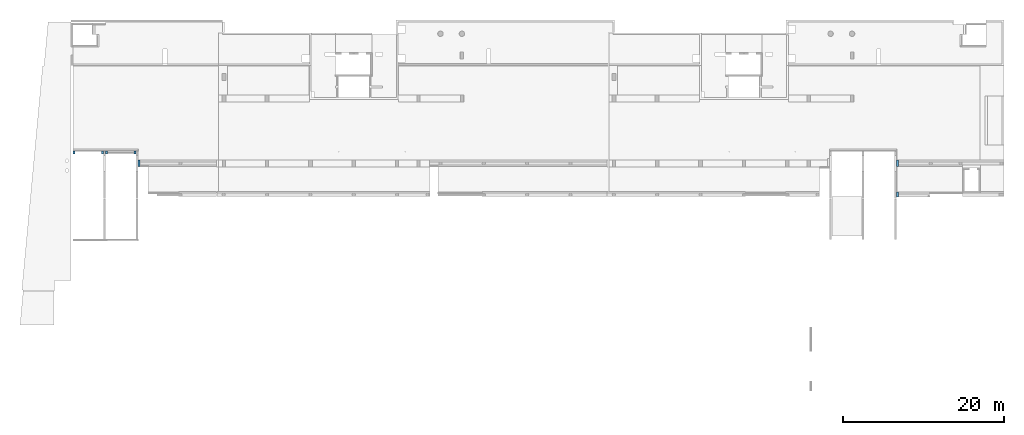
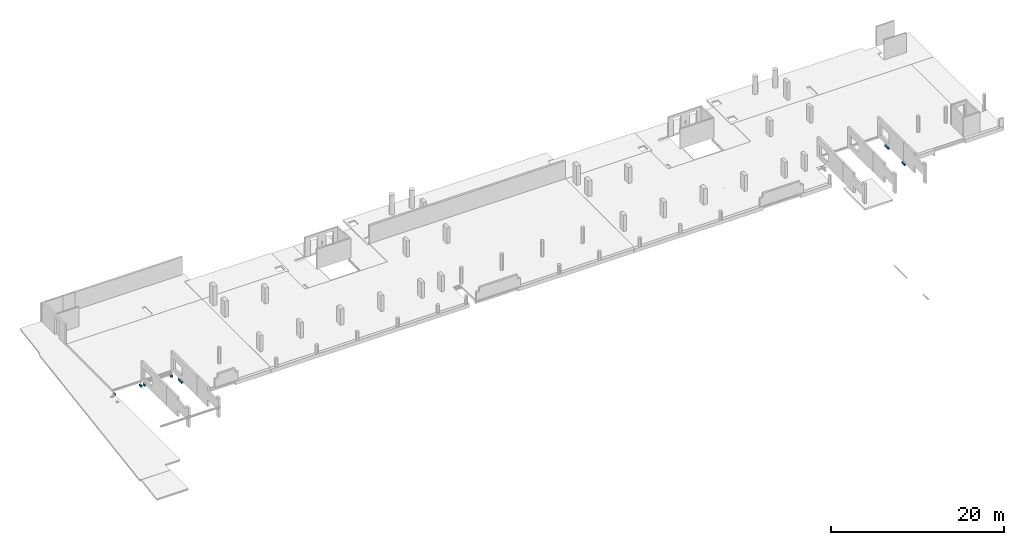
# One storey, part 8 of 8: 7 walls.
"""IFC2X3 building model written with IfcOpenShell, lengths in millimetres."""

from ifc_helpers import new_model, entity, si_unit, converted_unit, derived_unit, direction, frame, origin, place, context, subcontext, project, spatial, faceted_brep, material, type_object, element, save


model = new_model("IFC2X3")

# Units and contexts
model_context = context("Model", 3, precision=0.01, world=origin(), true_north=direction((6.12303176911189e-17, 1.0)))
body_context = subcontext(model_context, "Body", "Model", "MODEL_VIEW")
ifc_project = project(units=[si_unit("LENGTHUNIT", "METRE", prefix="MILLI"), si_unit("AREAUNIT", "SQUARE_METRE"), si_unit("VOLUMEUNIT", "CUBIC_METRE"), converted_unit("PLANEANGLEUNIT", "DEGREE", entity("IfcRatioMeasure", 0.0174532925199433), si_unit("PLANEANGLEUNIT", "RADIAN"), dimensions=[0, 0, 0, 0, 0, 0, 0]), si_unit("MASSUNIT", "GRAM", prefix="KILO"), derived_unit("MASSDENSITYUNIT", [(si_unit("MASSUNIT", "GRAM", prefix="KILO"), 1), (si_unit("LENGTHUNIT", "METRE"), -3)]), si_unit("TIMEUNIT", "SECOND"), si_unit("FREQUENCYUNIT", "HERTZ"), si_unit("THERMODYNAMICTEMPERATUREUNIT", "DEGREE_CELSIUS"), derived_unit("THERMALTRANSMITTANCEUNIT", [(si_unit("MASSUNIT", "GRAM", prefix="KILO"), 1), (si_unit("THERMODYNAMICTEMPERATUREUNIT", "KELVIN"), -1), (si_unit("TIMEUNIT", "SECOND"), -3)]), derived_unit("VOLUMETRICFLOWRATEUNIT", [(si_unit("LENGTHUNIT", "METRE"), 3), (si_unit("TIMEUNIT", "SECOND"), -1)]), si_unit("ELECTRICCURRENTUNIT", "AMPERE"), si_unit("ELECTRICVOLTAGEUNIT", "VOLT"), si_unit("POWERUNIT", "WATT"), si_unit("FORCEUNIT", "NEWTON", prefix="KILO"), si_unit("ILLUMINANCEUNIT", "LUX"), si_unit("LUMINOUSFLUXUNIT", "LUMEN"), si_unit("LUMINOUSINTENSITYUNIT", "CANDELA"), derived_unit("USERDEFINED", [(si_unit("MASSUNIT", "GRAM", prefix="KILO"), -1), (si_unit("LENGTHUNIT", "METRE"), -2), (si_unit("TIMEUNIT", "SECOND"), 3), (si_unit("LUMINOUSFLUXUNIT", "LUMEN"), 1)]), derived_unit("LINEARVELOCITYUNIT", [(si_unit("LENGTHUNIT", "METRE"), 1), (si_unit("TIMEUNIT", "SECOND"), -1)]), si_unit("PRESSUREUNIT", "PASCAL"), derived_unit("USERDEFINED", [(si_unit("LENGTHUNIT", "METRE"), -2), (si_unit("MASSUNIT", "GRAM", prefix="KILO"), 1), (si_unit("TIMEUNIT", "SECOND"), -2)])], contexts=[model_context])

# Site, building, storey
site_placement = place(None, origin())
site = spatial("IfcSite", under=ifc_project, at=site_placement, Name="Default", CompositionType="ELEMENT")
building_placement = place(site_placement, origin())
building = spatial("IfcBuilding", under=site, at=building_placement, Name="niet gebruiken", CompositionType="ELEMENT")
storey_placement = place(building_placement, frame((0.0, 0.0, 3810.0)))
storey = spatial("IfcBuildingStorey", under=building, at=storey_placement, Name="01a eerste tussenverdieping", CompositionType="ELEMENT", Elevation=3810.0)

# Walls
ifc_material = material(Name="NLRS_f2_beton prefab")
wall_type_1 = type_object("IfcWallType", Name="NLRS_21.21_SF_WPB_oplegnok prefabbeton_gen:250x310", PredefinedType="NOTDEFINED", material=ifc_material)
for number, where, z_axis, x_axis, name in (
    (1, (110825.0, 28481.0, -850.0), (0.0, 0.0, 1.0), (0.0, 1.0, 0.0), "NLRS_21.21_SF_WPB_oplegnok prefabbeton_gen:250x310"),
    (2, (16325.0, 28481.0, -850.0), (0.0, 0.0, 1.0), (0.0, 1.0, 0.0), "NLRS_21.21_SF_WPB_oplegnok prefabbeton_gen:250x310"),
):
    element("IfcWall", number, at=place(storey_placement, frame(where, z_axis=z_axis, x_axis=x_axis)), inside=storey, type_object=wall_type_1, material=ifc_material, Name=name, ObjectType="NLRS_21.21_SF_WPB_oplegnok prefabbeton_gen:250x310", context=body_context, shape_type="Brep", body=[
        faceted_brep([(0.0, 0.0, 310.0), (0.0, 0.0, 0.0), (0.0, -250.0, 39.9987607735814), (0.0, -250.0, 310.0), (800.0, 0.0, 310.0), (800.0, -250.0, 310.0), (800.0, -250.0, 39.9987607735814), (800.0, 0.0, 0.0)], [[[0, 1, 2, 3]], [[4, 5, 6, 7]], [[1, 0, 4, 7]], [[3, 2, 6, 5]], [[0, 3, 5, 4]], [[2, 1, 7, 6]]]),
    ])
wall_1_placement = place(storey_placement, frame((110825.0, 24701.0, -850.0), z_axis=(0.0, 0.0, 1.0), x_axis=(0.0, 1.0, 0.0)))
element("IfcWall", 3, at=wall_1_placement, inside=storey, type_object=wall_type_1, material=ifc_material, Name="NLRS_21.21_SF_WPB_oplegnok prefabbeton_gen:250x310", ObjectType="NLRS_21.21_SF_WPB_oplegnok prefabbeton_gen:250x310", context=body_context, shape_type="Brep", body=[
    faceted_brep([(0.0, 0.0, 310.0), (0.0, 0.0, 0.0), (0.0, -250.0, 39.9987607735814), (0.0, -250.0, 310.0), (600.0, 0.0, 310.0), (600.0, -250.0, 310.0), (600.0, -250.0, 39.9987607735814), (600.0, 0.0, 0.0)], [[[0, 1, 2, 3]], [[4, 5, 6, 7]], [[1, 0, 4, 7]], [[3, 2, 6, 5]], [[0, 3, 5, 4]], [[2, 1, 7, 6]]]),
])
wall_type_2 = type_object("IfcWallType", Name="NLRS_21.21_SF_WPB_oplegnok prefabbeton_gen:250x270 met afschuining 9gr", PredefinedType="NOTDEFINED", material=ifc_material)
wall_2_placement = place(storey_placement, frame((12275.0, 30046.0, -770.0), z_axis=(0.0, 0.0, 1.0), x_axis=(0.0, 1.0, 0.0)))
element("IfcWall", 4, at=wall_2_placement, inside=storey, type_object=wall_type_2, material=ifc_material, Name="NLRS_21.21_SF_WPB_oplegnok prefabbeton_gen:250x270 met afschuining 9gr", ObjectType="NLRS_21.21_SF_WPB_oplegnok prefabbeton_gen:250x270 met afschuining 9gr", context=body_context, shape_type="Brep", body=[
    faceted_brep([(0.0, 0.0, 310.0), (0.0, 0.0, 0.0), (0.0, -250.0, 39.5961100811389), (0.0, -250.0, 310.0), (380.0, 0.0, 310.0), (380.0, -250.0, 310.0), (380.0, -250.0, 39.5961100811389), (380.0, 0.0, 0.0)], [[[0, 1, 2, 3]], [[4, 5, 6, 7]], [[1, 0, 4, 7]], [[3, 2, 6, 5]], [[0, 3, 5, 4]], [[2, 1, 7, 6]]]),
])
wall_3_placement = place(storey_placement, frame((15825.0, 30046.0, -770.0), z_axis=(0.0, 0.0, 1.0), x_axis=(0.0, 1.0, 0.0)))
element("IfcWall", 5, at=wall_3_placement, inside=storey, type_object=wall_type_2, material=ifc_material, Name="NLRS_21.21_SF_WPB_oplegnok prefabbeton_gen:250x270 met afschuining 9gr", ObjectType="NLRS_21.21_SF_WPB_oplegnok prefabbeton_gen:250x270 met afschuining 9gr", context=body_context, shape_type="Brep", body=[
    faceted_brep([(0.0, -250.0, 310.0), (0.0, 0.0, 310.0), (0.0, 0.0, 39.5961100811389), (0.0, -250.0, 0.0), (380.0, -250.0, 310.0), (380.0, -250.0, 0.0), (380.0, 0.0, 39.5961100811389), (380.0, 0.0, 310.0)], [[[0, 1, 2, 3]], [[4, 5, 6, 7]], [[3, 5, 4, 0]], [[1, 7, 6, 2]], [[0, 4, 7, 1]], [[2, 6, 5, 3]]]),
])
wall_4_placement = place(storey_placement, frame((8225.0, 30046.0, -770.0), z_axis=(0.0, 0.0, 1.0), x_axis=(0.0, 1.0, 0.0)))
element("IfcWall", 6, at=wall_4_placement, inside=storey, type_object=wall_type_2, material=ifc_material, Name="NLRS_21.21_SF_WPB_oplegnok prefabbeton_gen:250x270 met afschuining 9gr", ObjectType="NLRS_21.21_SF_WPB_oplegnok prefabbeton_gen:250x270 met afschuining 9gr", context=body_context, shape_type="Brep", body=[
    faceted_brep([(0.0, 0.0, 310.0), (0.0, 0.0, 0.0), (0.0, -250.0, 39.5961100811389), (0.0, -250.0, 310.0), (380.0, 0.0, 310.0), (380.0, -250.0, 310.0), (380.0, -250.0, 39.5961100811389), (380.0, 0.0, 0.0)], [[[0, 1, 2, 3]], [[4, 5, 6, 7]], [[1, 0, 4, 7]], [[3, 2, 6, 5]], [[0, 3, 5, 4]], [[2, 1, 7, 6]]]),
])
wall_5_placement = place(storey_placement, frame((11775.0, 30046.0, -770.0), z_axis=(0.0, 0.0, 1.0), x_axis=(0.0, 1.0, 0.0)))
element("IfcWall", 7, at=wall_5_placement, inside=storey, type_object=wall_type_2, material=ifc_material, Name="NLRS_21.21_SF_WPB_oplegnok prefabbeton_gen:250x270 met afschuining 9gr", ObjectType="NLRS_21.21_SF_WPB_oplegnok prefabbeton_gen:250x270 met afschuining 9gr", context=body_context, shape_type="Brep", body=[
    faceted_brep([(0.0, -250.0, 310.0), (0.0, 0.0, 310.0), (0.0, 0.0, 39.5961100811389), (0.0, -250.0, 0.0), (380.0, -250.0, 310.0), (380.0, -250.0, 0.0), (380.0, 0.0, 39.5961100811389), (380.0, 0.0, 310.0)], [[[0, 1, 2, 3]], [[4, 5, 6, 7]], [[3, 5, 4, 0]], [[1, 7, 6, 2]], [[0, 4, 7, 1]], [[2, 6, 5, 3]]]),
])

save(model, "model.ifc")
